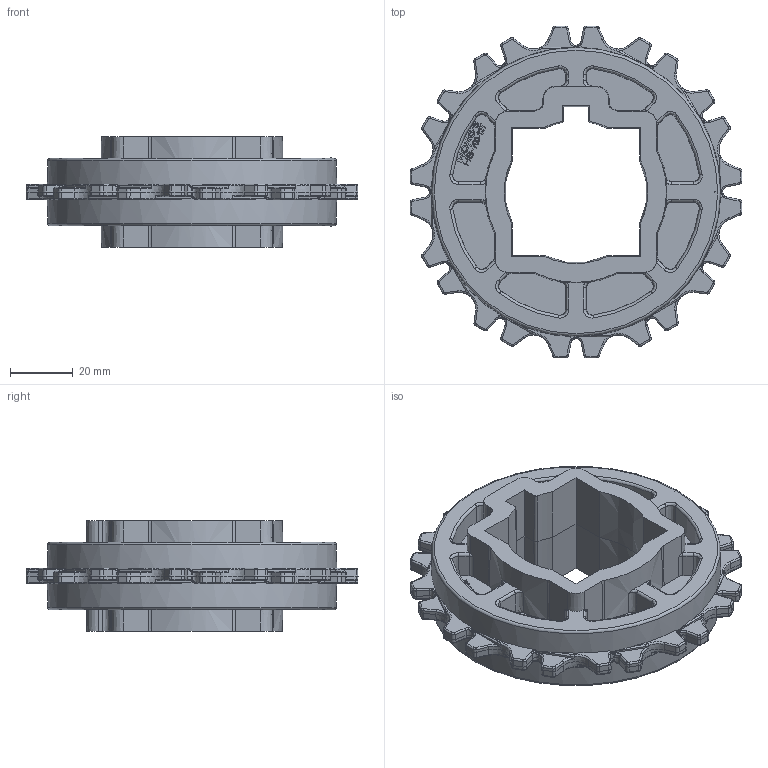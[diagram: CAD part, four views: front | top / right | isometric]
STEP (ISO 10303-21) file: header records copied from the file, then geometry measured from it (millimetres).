
FILE_DESCRIPTION(/* description */ (''),/* implementation_level */ '2;1');
FILE_NAME(/* name */ 'HS-700-12T.stp',/* time_stamp */ '2020-11-17T17:51:26+08:00',/* author */ (''),/* organization */ (''),/* preprocessor_version */ 'ST-DEVELOPER v15',/* originating_system */ 'SIEMENS PLM Software NX 8.5',/* authorisation */ '');
FILE_SCHEMA (('AP203_CONFIGURATION_CONTROLLED_3D_DESIGN_OF_MECHANICAL_PARTS_AND_ASSEMBLIES_MIM_LF { 1 0 10303 403 2 1 2}'));
Length unit declared in the file: millimetre
Products named in the file (1): Admi14F43DF3wzsb
Bounding box: 105.5 x 105.5 x 35.2 mm (x, y, z)
Volume: 97155.8 mm3; surface area: 34947.9 mm2
Topology: 1 solids, 1 shells, 1859 faces, 4579 edges, 2798 vertices
Faces by surface type: plane 693, bspline 324, cylinder 270, cone 266, extrusion 168, torus 138
Entity records: 75887 total; most frequent: CARTESIAN_POINT 21412, ORIENTED_EDGE 9146, DIRECTION 7882, EDGE_CURVE 4573, AXIS2_PLACEMENT_3D 2837, VERTEX_POINT 2796, VECTOR 2208, LINE 2040
